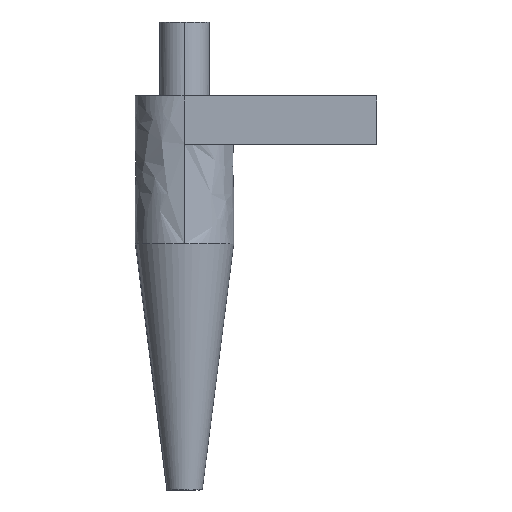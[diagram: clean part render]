
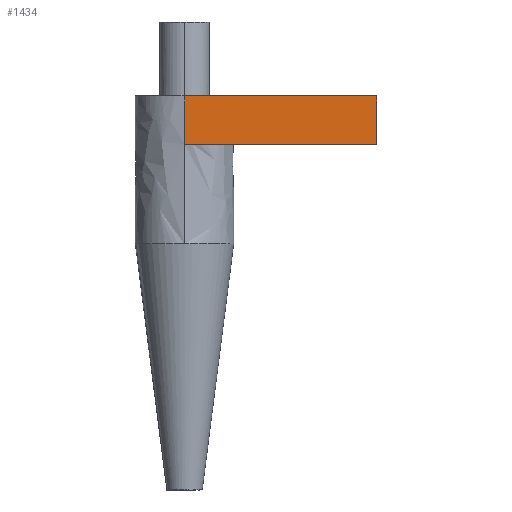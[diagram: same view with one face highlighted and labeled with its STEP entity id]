
A CAD part, left-side view. The second image highlights one B-rep face of the part: STEP entity #1434.
In plain terms, the highlighted free-form (B-spline) face has degree [1, 1] with [2, 2] control points.
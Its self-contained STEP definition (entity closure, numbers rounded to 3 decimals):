
#568 = ( BOUNDED_SURFACE() B_SPLINE_SURFACE(2,1,(
    (#569,#570)
    ,(#571,#572)
    ,(#573,#574)
    ,(#575,#576)
,(#577,#578
    )),.UNSPECIFIED.,.F.,.F.,.F.) B_SPLINE_SURFACE_WITH_KNOTS((3,2,3),(2
    ,2),(0.,0.161,0.322),(0.,0.308),.UNSPECIFIED.) 
GEOMETRIC_REPRESENTATION_ITEM() RATIONAL_B_SPLINE_SURFACE((
    (1.,1.)
    ,(0.707,0.707)
    ,(1.,1.)
    ,(0.707,0.707)
,(1.,1.))) REPRESENTATION_ITEM('') SURFACE() );
#569 = CARTESIAN_POINT('',(102.5,0.,-462.));
#570 = CARTESIAN_POINT('',(102.5,0.,-154.));
#571 = CARTESIAN_POINT('',(102.5,102.5,-462.));
#572 = CARTESIAN_POINT('',(102.5,102.5,-154.));
#573 = CARTESIAN_POINT('',(0.,102.5,-462.));
#574 = CARTESIAN_POINT('',(0.,102.5,-154.));
#575 = CARTESIAN_POINT('',(-102.5,102.5,-462.));
#576 = CARTESIAN_POINT('',(-102.5,102.5,-154.));
#577 = CARTESIAN_POINT('',(-102.5,0.,-462.));
#578 = CARTESIAN_POINT('',(-102.5,0.,-154.));
#814 = VERTEX_POINT('',#815);
#815 = CARTESIAN_POINT('',(-102.5,0.,-154.));
#1114 = VERTEX_POINT('',#1115);
#1115 = CARTESIAN_POINT('',(-102.5,0.,-254.));
#1133 = EDGE_CURVE('',#814,#1114,#1134,.T.);
#1134 = SURFACE_CURVE('',#1135,(#1138,#1144),.PCURVE_S1.);
#1135 = B_SPLINE_CURVE_WITH_KNOTS('',1,(#1136,#1137),.UNSPECIFIED.,.F.,
  .F.,(2,2),(0.18,0.28),.PIECEWISE_BEZIER_KNOTS.);
#1136 = CARTESIAN_POINT('',(-102.5,0.,-154.));
#1137 = CARTESIAN_POINT('',(-102.5,0.,-254.));
#1138 = PCURVE('',#568,#1139);
#1139 = DEFINITIONAL_REPRESENTATION('',(#1140),#1143);
#1140 = B_SPLINE_CURVE_WITH_KNOTS('',1,(#1141,#1142),.UNSPECIFIED.,.F.,
  .F.,(2,2),(0.18,0.28),.PIECEWISE_BEZIER_KNOTS.);
#1141 = CARTESIAN_POINT('',(0.322,0.308));
#1142 = CARTESIAN_POINT('',(0.322,0.208));
#1143 = ( GEOMETRIC_REPRESENTATION_CONTEXT(2) 
PARAMETRIC_REPRESENTATION_CONTEXT() REPRESENTATION_CONTEXT('2D SPACE',''
  ) );
#1144 = PCURVE('',#1145,#1150);
#1145 = B_SPLINE_SURFACE_WITH_KNOTS('',1,1,(
    (#1146,#1147)
    ,(#1148,#1149
    )),.UNSPECIFIED.,.F.,.F.,.F.,(2,2),(2,2),(0.18,0.28),(0.,0.4),
  .PIECEWISE_BEZIER_KNOTS.);
#1146 = CARTESIAN_POINT('',(-102.5,0.,-154.));
#1147 = CARTESIAN_POINT('',(-102.5,-400.,-154.));
#1148 = CARTESIAN_POINT('',(-102.5,0.,-254.));
#1149 = CARTESIAN_POINT('',(-102.5,-400.,-254.));
#1150 = DEFINITIONAL_REPRESENTATION('',(#1151),#1155);
#1151 = LINE('',#1152,#1153);
#1152 = CARTESIAN_POINT('',(0.,0.));
#1153 = VECTOR('',#1154,1.);
#1154 = DIRECTION('',(1.,0.));
#1155 = ( GEOMETRIC_REPRESENTATION_CONTEXT(2) 
PARAMETRIC_REPRESENTATION_CONTEXT() REPRESENTATION_CONTEXT('2D SPACE',''
  ) );
#1224 = EDGE_CURVE('',#1225,#1227,#1229,.T.);
#1225 = VERTEX_POINT('',#1226);
#1226 = CARTESIAN_POINT('',(-102.5,-400.,-154.));
#1227 = VERTEX_POINT('',#1228);
#1228 = CARTESIAN_POINT('',(-102.5,-400.,-254.));
#1229 = SURFACE_CURVE('',#1230,(#1233,#1245),.PCURVE_S1.);
#1230 = B_SPLINE_CURVE_WITH_KNOTS('',1,(#1231,#1232),.UNSPECIFIED.,.F.,
  .F.,(2,2),(0.,0.1),.PIECEWISE_BEZIER_KNOTS.);
#1231 = CARTESIAN_POINT('',(-102.5,-400.,-154.));
#1232 = CARTESIAN_POINT('',(-102.5,-400.,-254.));
#1233 = PCURVE('',#1234,#1239);
#1234 = B_SPLINE_SURFACE_WITH_KNOTS('',1,1,(
    (#1235,#1236)
    ,(#1237,#1238
    )),.UNSPECIFIED.,.F.,.F.,.F.,(2,2),(2,2),(0.,0.1),(
    0.,0.04),.PIECEWISE_BEZIER_KNOTS.);
#1235 = CARTESIAN_POINT('',(-102.5,-400.,-154.));
#1236 = CARTESIAN_POINT('',(-62.5,-400.,-154.));
#1237 = CARTESIAN_POINT('',(-102.5,-400.,-254.));
#1238 = CARTESIAN_POINT('',(-62.5,-400.,-254.));
#1239 = DEFINITIONAL_REPRESENTATION('',(#1240),#1244);
#1240 = LINE('',#1241,#1242);
#1241 = CARTESIAN_POINT('',(0.,0.));
#1242 = VECTOR('',#1243,1.);
#1243 = DIRECTION('',(1.,0.));
#1244 = ( GEOMETRIC_REPRESENTATION_CONTEXT(2) 
PARAMETRIC_REPRESENTATION_CONTEXT() REPRESENTATION_CONTEXT('2D SPACE',''
  ) );
#1245 = PCURVE('',#1145,#1246);
#1246 = DEFINITIONAL_REPRESENTATION('',(#1247),#1250);
#1247 = B_SPLINE_CURVE_WITH_KNOTS('',1,(#1248,#1249),.UNSPECIFIED.,.F.,
  .F.,(2,2),(0.,0.1),.PIECEWISE_BEZIER_KNOTS.);
#1248 = CARTESIAN_POINT('',(0.18,0.4));
#1249 = CARTESIAN_POINT('',(0.28,0.4));
#1250 = ( GEOMETRIC_REPRESENTATION_CONTEXT(2) 
PARAMETRIC_REPRESENTATION_CONTEXT() REPRESENTATION_CONTEXT('2D SPACE',''
  ) );
#1267 = B_SPLINE_SURFACE_WITH_KNOTS('',1,1,(
    (#1268,#1269)
    ,(#1270,#1271
    )),.UNSPECIFIED.,.F.,.F.,.F.,(2,2),(2,2),(0.,0.04),(0.,0.4),
  .PIECEWISE_BEZIER_KNOTS.);
#1268 = CARTESIAN_POINT('',(-102.5,0.,-254.));
#1269 = CARTESIAN_POINT('',(-102.5,-400.,-254.));
#1270 = CARTESIAN_POINT('',(-62.5,0.,-254.));
#1271 = CARTESIAN_POINT('',(-62.5,-400.,-254.));
#1316 = B_SPLINE_SURFACE_WITH_KNOTS('',1,1,(
    (#1317,#1318)
    ,(#1319,#1320
    )),.UNSPECIFIED.,.F.,.F.,.F.,(2,2),(2,2),(0.14,0.18),(0.,0.4),
  .PIECEWISE_BEZIER_KNOTS.);
#1317 = CARTESIAN_POINT('',(-62.5,0.,-154.));
#1318 = CARTESIAN_POINT('',(-62.5,-400.,-154.));
#1319 = CARTESIAN_POINT('',(-102.5,0.,-154.));
#1320 = CARTESIAN_POINT('',(-102.5,-400.,-154.));
#1396 = EDGE_CURVE('',#814,#1225,#1397,.T.);
#1397 = SURFACE_CURVE('',#1398,(#1401,#1408),.PCURVE_S1.);
#1398 = B_SPLINE_CURVE_WITH_KNOTS('',1,(#1399,#1400),.UNSPECIFIED.,.F.,
  .F.,(2,2),(0.,0.4),.PIECEWISE_BEZIER_KNOTS.);
#1399 = CARTESIAN_POINT('',(-102.5,0.,-154.));
#1400 = CARTESIAN_POINT('',(-102.5,-400.,-154.));
#1401 = PCURVE('',#1316,#1402);
#1402 = DEFINITIONAL_REPRESENTATION('',(#1403),#1407);
#1403 = LINE('',#1404,#1405);
#1404 = CARTESIAN_POINT('',(0.18,0.));
#1405 = VECTOR('',#1406,1.);
#1406 = DIRECTION('',(0.,1.));
#1407 = ( GEOMETRIC_REPRESENTATION_CONTEXT(2) 
PARAMETRIC_REPRESENTATION_CONTEXT() REPRESENTATION_CONTEXT('2D SPACE',''
  ) );
#1408 = PCURVE('',#1145,#1409);
#1409 = DEFINITIONAL_REPRESENTATION('',(#1410),#1414);
#1410 = LINE('',#1411,#1412);
#1411 = CARTESIAN_POINT('',(0.18,0.));
#1412 = VECTOR('',#1413,1.);
#1413 = DIRECTION('',(0.,1.));
#1414 = ( GEOMETRIC_REPRESENTATION_CONTEXT(2) 
PARAMETRIC_REPRESENTATION_CONTEXT() REPRESENTATION_CONTEXT('2D SPACE',''
  ) );
#1434 = ADVANCED_FACE('',(#1435),#1145,.F.);
#1435 = FACE_BOUND('',#1436,.F.);
#1436 = EDGE_LOOP('',(#1437,#1438,#1458,#1459));
#1437 = ORIENTED_EDGE('',*,*,#1133,.T.);
#1438 = ORIENTED_EDGE('',*,*,#1439,.T.);
#1439 = EDGE_CURVE('',#1114,#1227,#1440,.T.);
#1440 = SURFACE_CURVE('',#1441,(#1444,#1451),.PCURVE_S1.);
#1441 = B_SPLINE_CURVE_WITH_KNOTS('',1,(#1442,#1443),.UNSPECIFIED.,.F.,
  .F.,(2,2),(0.,0.4),.PIECEWISE_BEZIER_KNOTS.);
#1442 = CARTESIAN_POINT('',(-102.5,0.,-254.));
#1443 = CARTESIAN_POINT('',(-102.5,-400.,-254.));
#1444 = PCURVE('',#1145,#1445);
#1445 = DEFINITIONAL_REPRESENTATION('',(#1446),#1450);
#1446 = LINE('',#1447,#1448);
#1447 = CARTESIAN_POINT('',(0.28,0.));
#1448 = VECTOR('',#1449,1.);
#1449 = DIRECTION('',(0.,1.));
#1450 = ( GEOMETRIC_REPRESENTATION_CONTEXT(2) 
PARAMETRIC_REPRESENTATION_CONTEXT() REPRESENTATION_CONTEXT('2D SPACE',''
  ) );
#1451 = PCURVE('',#1267,#1452);
#1452 = DEFINITIONAL_REPRESENTATION('',(#1453),#1457);
#1453 = LINE('',#1454,#1455);
#1454 = CARTESIAN_POINT('',(0.,0.));
#1455 = VECTOR('',#1456,1.);
#1456 = DIRECTION('',(0.,1.));
#1457 = ( GEOMETRIC_REPRESENTATION_CONTEXT(2) 
PARAMETRIC_REPRESENTATION_CONTEXT() REPRESENTATION_CONTEXT('2D SPACE',''
  ) );
#1458 = ORIENTED_EDGE('',*,*,#1224,.F.);
#1459 = ORIENTED_EDGE('',*,*,#1396,.F.);
